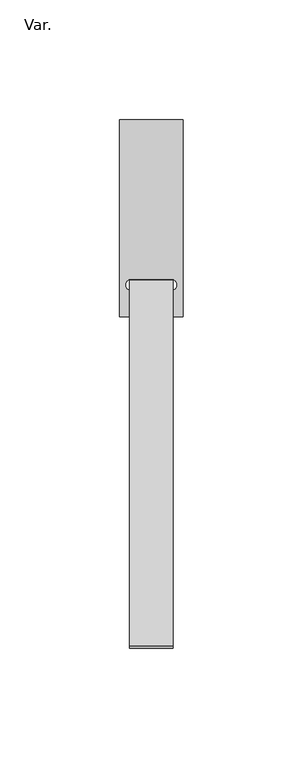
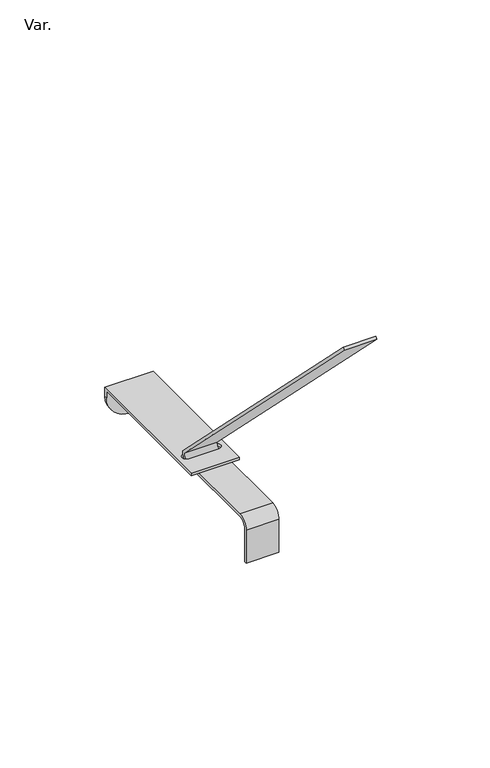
"""IFC4 building model written with IfcOpenShell, lengths in millimetres: pipe fitting geometry, PavcoWavin_UnionesDeTuberia_ZCanal Raingo_Soporte Metálico_NoUsarUnion : Var.."""

from ifc_helpers import new_model, si_unit, point, frame, frame_2d, origin, place, context, project, spatial, polyline, circle_curve, trimmed, segment, composite_curve, outline, extrude, source, transform, mapped, element, save
from ifc_brep_helpers import plane_surface, cylinder_surface, revolved_surface, advanced_brep


def var_f97e31ab(model_context):
    return source(origin(), model_context, "Body", "SolidModel", [
        advanced_brep(
        [(13.25, 61.0012209, -29.2720965), (13.25, -21.1487791, -29.2720965), (13.25, -21.1487791, -30.7720965), (13.25, 59.5012209, -30.7720965), (13.25, 59.5012209, -34.5220965), (13.25, 61.0012209, -34.5220965), (-13.25, 59.5012209, -30.7720965), (-13.25, -21.1487791, -30.7720965), (-13.25, -21.1487791, -29.2720965), (-13.25, 61.0012209, -29.2720965), (-13.25, 61.0012209, -34.5220965), (-13.25, 59.5012209, -34.5220965), (-8.37, -5.6487791, -29.2720965), (8.37, -5.6487791, -29.2720965), (8.37, -10.1487791, -29.2720965), (-8.37, -10.1487791, -29.2720965), (8.37, -5.6487791, -30.7720965), (-8.37, -5.6487791, -30.7720965), (-8.37, -10.1487791, -30.7720965), (8.37, -10.1487791, -30.7720965), (0.0, 59.5012209, -47.7720965), (0.0, 61.0012209, -47.7720965)],
        [
            (0, 1),
            (1, 2),
            (2, 3),
            (3, 4),
            (4, 5),
            (5, 0),
            (6, 7),
            (7, 8),
            (8, 9),
            (9, 10),
            (10, 11),
            (11, 6),
            (0, 9),
            (8, 1),
            (12, 13),
            (13, 14, circle_curve(frame((8.37, -7.8987791, -29.2720965), z_axis=(0.0, 0.0, -1.0), x_axis=(1.0, 0.0, 0.0)), 2.25)),
            (14, 15),
            (15, 12, circle_curve(frame((-8.37, -7.8987791, -29.2720965), z_axis=(0.0, 0.0, -1.0), x_axis=(-1.0, 0.0, 0.0)), 2.25)),
            (7, 2),
            (6, 3),
            (16, 17),
            (17, 18, circle_curve(frame((-8.37, -7.8987791, -30.7720965), z_axis=(0.0, 0.0, 1.0), x_axis=(-1.0, 0.0, 0.0)), 2.25)),
            (18, 19),
            (19, 16, circle_curve(frame((8.37, -7.8987791, -30.7720965), z_axis=(0.0, 0.0, 1.0), x_axis=(1.0, 0.0, 0.0)), 2.25)),
            (11, 20, circle_curve(frame((0.0, 59.5012209, -34.5220965), z_axis=(0.0, -1.0, 0.0), x_axis=(1.0, 0.0, 0.0)), 13.25)),
            (20, 4, circle_curve(frame((0.0, 59.5012209, -34.5220965), z_axis=(0.0, -1.0, 0.0), x_axis=(-1.0, 0.0, 0.0)), 13.25)),
            (5, 21, circle_curve(frame((0.0, 61.0012209, -34.5220965), z_axis=(0.0, 1.0, 0.0), x_axis=(-1.0, 0.0, 0.0)), 13.25)),
            (21, 10, circle_curve(frame((0.0, 61.0012209, -34.5220965), z_axis=(0.0, 1.0, 0.0), x_axis=(1.0, 0.0, 0.0)), 13.25)),
            (20, 21),
            (12, 17),
            (16, 13),
            (15, 18),
            (14, 19),
        ],
        [
            plane_surface(frame((13.25, -21.1487791, -29.2720965), z_axis=(1.0, 0.0, 0.0), x_axis=(0.0, -1.0, 0.0))),
            plane_surface(frame((-13.25, -21.1487791, -29.2720965), z_axis=(-1.0, 0.0, 0.0), x_axis=(0.0, 1.0, 0.0))),
            plane_surface(frame((13.25, 61.0012209, -29.2720965), z_axis=(0.0, 0.0, 1.0), x_axis=(-1.0, 0.0, 0.0))),
            plane_surface(frame((13.25, -21.1487791, -29.2720965), z_axis=(0.0, -1.0, 0.0), x_axis=(-1.0, 0.0, 0.0))),
            plane_surface(frame((13.25, -21.1487791, -30.7720965), z_axis=(0.0, 0.0, -1.0), x_axis=(-1.0, 0.0, 0.0))),
            plane_surface(frame((13.25, 59.5012209, -30.7720965), z_axis=(0.0, -1.0, 0.0), x_axis=(-1.0, 0.0, 0.0))),
            plane_surface(frame((13.25, 61.0012209, -47.7720965), z_axis=(0.0, 1.0, 0.0), x_axis=(-1.0, 0.0, 0.0))),
            cylinder_surface(frame((0.0, 61.0012209, -34.5220965), z_axis=(0.0, 1.0, 0.0), x_axis=(-1.0, 0.0, 0.0)), 13.25),
            cylinder_surface(frame((0.0, 61.0012209, -34.5220965), z_axis=(0.0, 1.0, 0.0), x_axis=(1.0, 0.0, 0.0)), 13.25),
            plane_surface(frame((8.37, -5.6487791, -29.2720965), z_axis=(0.0, -1.0, 0.0), x_axis=(0.0, 0.0, -1.0))),
            revolved_surface(polyline([(-10.62, -7.8987791, -29.2720965), (-10.62, -7.8987791, -30.7720965)]), (-8.37, -7.8987791, -30.7720965), (0.0, 0.0, 1.0)),
            plane_surface(frame((-8.37, -10.1487791, -29.2720965), z_axis=(0.0, 1.0, 0.0), x_axis=(0.0, 0.0, -1.0))),
            revolved_surface(polyline([(10.62, -7.8987791, -29.2720965), (10.62, -7.8987791, -30.7720965)]), (8.37, -7.8987791, -30.7720965), (0.0, 0.0, 1.0)),
        ],
        [
            (0, [[1, 2, 3, 4, 5, 6]]),
            (1, [[7, 8, 9, 10, 11, 12]]),
            (2, [[-1, 13, -9, 14], [15, 16, 17, 18]]),
            (3, [[-2, -14, -8, 19]]),
            (4, [[-3, -19, -7, 20], [21, 22, 23, 24]]),
            (5, [[-20, -12, 25, 26, -4]]),
            (6, [[-13, -6, 27, 28, -10]]),
            (7, [[-5, -26, 29, -27]]),
            (8, [[-11, -28, -29, -25]]),
            (9, [[30, -21, 31, -15]]),
            (10, [[-30, -18, 32, -22]]),
            (11, [[-32, -17, 33, -23]]),
            (12, [[-31, -24, -33, -16]]),
        ],
    ),
        extrude(outline(composite_curve([segment(polyline([(-60.1987791, -30.7720965), (-10.1487791, -30.7720965)]), True, "CONTINUOUS"), segment(trimmed(circle_curve(frame_2d((-10.1487791, -27.7720965)), 3.0), [point((-10.1487791, -30.7720965))], [point((-7.1487791, -27.7720965))], True, "CARTESIAN"), True, "CONTINUOUS"), segment(polyline([(-7.1487791, -27.7720965), (-159.5302904, 124.6094149), (-158.4696302, 125.670075), (-5.6991987, -27.1003565)]), True, "CONTINUOUS"), segment(trimmed(circle_curve(frame_2d((-10.1487791, -27.7720965)), 4.5), [point((-5.6991987, -27.1003565))], [point((-10.1487791, -32.2720965))], False, "CARTESIAN"), True, "CONTINUOUS"), segment(polyline([(-10.1487791, -32.2720965), (-60.1987791, -32.2720965)]), True, "CONTINUOUS"), segment(trimmed(circle_curve(frame_2d((-60.1987791, -36.7720965)), 4.5), [point((-60.1987791, -32.2720965))], [point((-64.6987791, -36.7720965))], True, "CARTESIAN"), True, "CONTINUOUS"), segment(polyline([(-64.6987791, -36.7720965), (-64.6987791, -55.8720965), (-66.1987791, -55.8720965), (-66.1987791, -36.7720965)]), True, "CONTINUOUS"), segment(trimmed(circle_curve(frame_2d((-60.1987791, -36.7720965)), 6.0), [point((-66.1987791, -36.7720965))], [point((-60.1987791, -30.7720965))], False, "CARTESIAN"), True, "CONTINUOUS")], self_intersect=False)), frame((-9.0, 0.0, 0.0), z_axis=(1.0, 0.0, 0.0), x_axis=(0.0, 1.0, 0.0)), (0.0, 0.0, 1.0), 18.0),
    ])


if __name__ == "__main__":
    model = new_model("IFC4")
    model_context = context("Model", 3, world=origin())
    ifc_project = project(units=[si_unit("LENGTHUNIT", "METRE", prefix="MILLI")], contexts=[model_context])
    site = spatial("IfcSite", under=ifc_project)
    building = spatial("IfcBuilding", under=site)
    placement = place(None, origin())
    var_shape = var_f97e31ab(model_context)
    element("IfcPipeFitting", 1, ObjectType="PavcoWavin_UnionesDeTuberia_ZCanal Raingo_Soporte Metálico_NoUsarUnion : Var.", at=placement, inside=building, context=model_context, shape_type="MappedRepresentation", body=[
        mapped(var_shape, transform((0.0, 0.0, 0.0), x_axis=(1.0, 0.0, 0.0), y_axis=(0.0, 1.0, 0.0), z_axis=(0.0, 0.0, 1.0))),
    ])
    save(model, "model.ifc")
